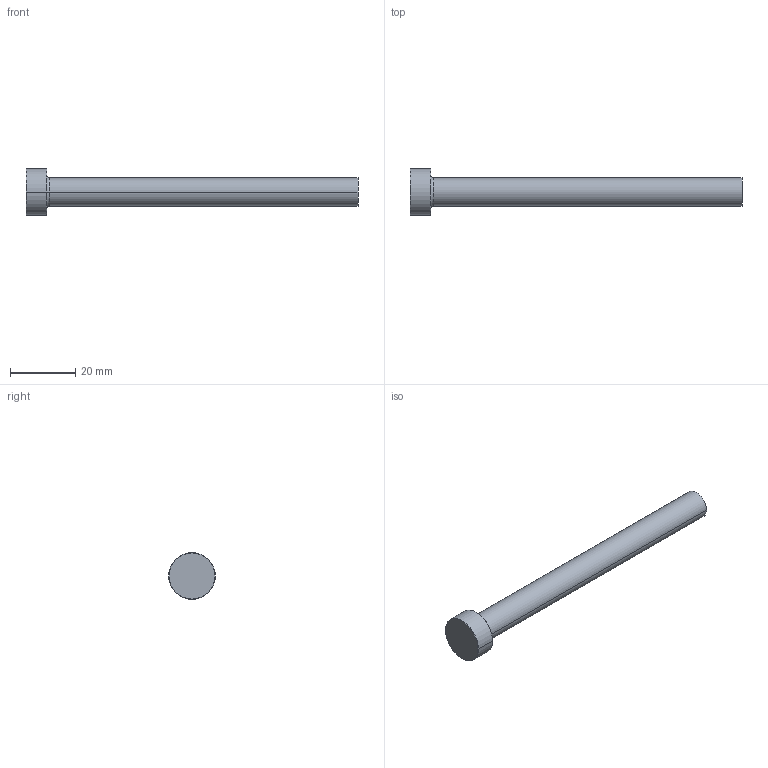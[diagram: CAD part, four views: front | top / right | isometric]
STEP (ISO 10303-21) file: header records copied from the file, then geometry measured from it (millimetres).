
FILE_DESCRIPTION (( 'STEP AP214' ), '1' );
FILE_NAME ('P23-4.STEP', '2020-03-12T09:43:53', ( '' ), ( '' ), 'SwSTEP 2.0', 'SolidWorks 2018', '' );
FILE_SCHEMA (( 'AUTOMOTIVE_DESIGN' ));
Length unit declared in the file: inch
Products named in the file (1): P23-4
Bounding box: 101.6 x 14.29 x 14.29 mm (x, y, z)
Volume: 6714.3 mm3; surface area: 3202 mm2
Topology: 1 solids, 1 shells, 13 faces, 24 edges, 14 vertices
Faces by surface type: cone 4, cylinder 4, plane 3, torus 2
Entity records: 366 total; most frequent: DIRECTION 68, CARTESIAN_POINT 52, ORIENTED_EDGE 48, AXIS2_PLACEMENT_3D 30, EDGE_CURVE 24, CIRCLE 16, VERTEX_POINT 14, EDGE_LOOP 14
